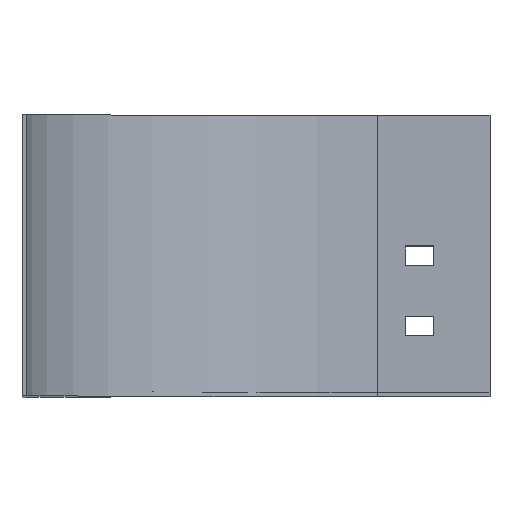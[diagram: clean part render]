
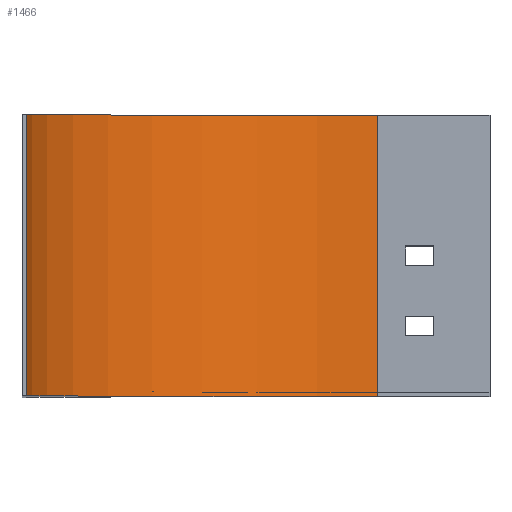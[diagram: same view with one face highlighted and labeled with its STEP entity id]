
A CAD part, top view. The second image highlights one B-rep face of the part: STEP entity #1466.
In plain terms, the highlighted cylindrical face has radius 125 mm (diameter 250 mm), a partial arc.
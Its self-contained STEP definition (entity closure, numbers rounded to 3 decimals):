
#4 = AXIS2_PLACEMENT_3D ( 'NONE', #5, #1666, #399 ) ;
#5 = CARTESIAN_POINT ( 'NONE',  ( 0., 100., 0. ) ) ;
#81 = CARTESIAN_POINT ( 'NONE',  ( 0., 100., -125. ) ) ;
#110 = EDGE_CURVE ( 'NONE', #1134, #1059, #229, .T. ) ;
#116 = ORIENTED_EDGE ( 'NONE', *, *, #110, .T. ) ;
#154 = CARTESIAN_POINT ( 'NONE',  ( 0., 0., -125. ) ) ;
#182 = CARTESIAN_POINT ( 'NONE',  ( 0., 100., -125. ) ) ;
#229 = LINE ( 'NONE', #858, #1275 ) ;
#278 = FACE_OUTER_BOUND ( 'NONE', #1660, .T. ) ;
#357 = DIRECTION ( 'NONE',  ( 0., -1., 0. ) ) ;
#380 = CYLINDRICAL_SURFACE ( 'NONE', #1536, 125. ) ;
#399 = DIRECTION ( 'NONE',  ( 0., 0., -1. ) ) ;
#444 = VECTOR ( 'NONE', #357, 1000. ) ;
#456 = ORIENTED_EDGE ( 'NONE', *, *, #481, .F. ) ;
#481 = EDGE_CURVE ( 'NONE', #1134, #502, #1327, .T. ) ;
#502 = VERTEX_POINT ( 'NONE', #182 ) ;
#565 = ORIENTED_EDGE ( 'NONE', *, *, #977, .T. ) ;
#619 = AXIS2_PLACEMENT_3D ( 'NONE', #984, #1169, #1507 ) ;
#700 = CARTESIAN_POINT ( 'NONE',  ( -125., 0., 0. ) ) ;
#823 = LINE ( 'NONE', #81, #444 ) ;
#833 = ORIENTED_EDGE ( 'NONE', *, *, #1337, .F. ) ;
#858 = CARTESIAN_POINT ( 'NONE',  ( -125., 100., 0. ) ) ;
#977 = EDGE_CURVE ( 'NONE', #1059, #1049, #1344, .T. ) ;
#984 = CARTESIAN_POINT ( 'NONE',  ( 0., 0., 0. ) ) ;
#1049 = VERTEX_POINT ( 'NONE', #154 ) ;
#1059 = VERTEX_POINT ( 'NONE', #700 ) ;
#1134 = VERTEX_POINT ( 'NONE', #1175 ) ;
#1169 = DIRECTION ( 'NONE',  ( 0., -1., 0. ) ) ;
#1175 = CARTESIAN_POINT ( 'NONE',  ( -125., 100., 0. ) ) ;
#1275 = VECTOR ( 'NONE', #1378, 1000. ) ;
#1294 = DIRECTION ( 'NONE',  ( 0., -1., 0. ) ) ;
#1327 = CIRCLE ( 'NONE', #4, 125. ) ;
#1337 = EDGE_CURVE ( 'NONE', #502, #1049, #823, .T. ) ;
#1344 = CIRCLE ( 'NONE', #619, 125. ) ;
#1378 = DIRECTION ( 'NONE',  ( 0., -1., 0. ) ) ;
#1450 = CARTESIAN_POINT ( 'NONE',  ( 0., 100., 0. ) ) ;
#1466 = ADVANCED_FACE ( 'NONE', ( #278 ), #380, .F. ) ;
#1507 = DIRECTION ( 'NONE',  ( 0., 0., -1. ) ) ;
#1536 = AXIS2_PLACEMENT_3D ( 'NONE', #1450, #1294, #1665 ) ;
#1660 = EDGE_LOOP ( 'NONE', ( #565, #833, #456, #116 ) ) ;
#1665 = DIRECTION ( 'NONE',  ( 0., 0., -1. ) ) ;
#1666 = DIRECTION ( 'NONE',  ( 0., -1., 0. ) ) ;
